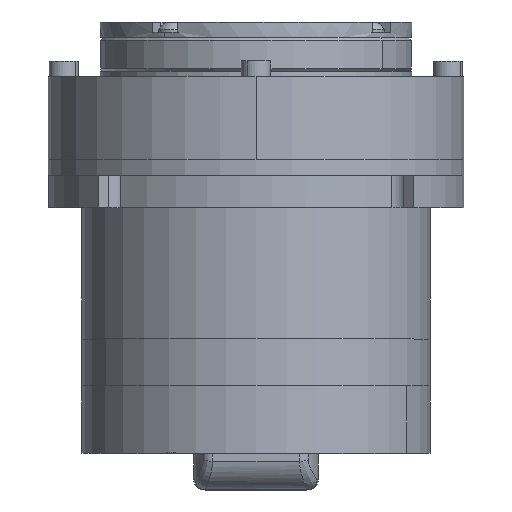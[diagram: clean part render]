
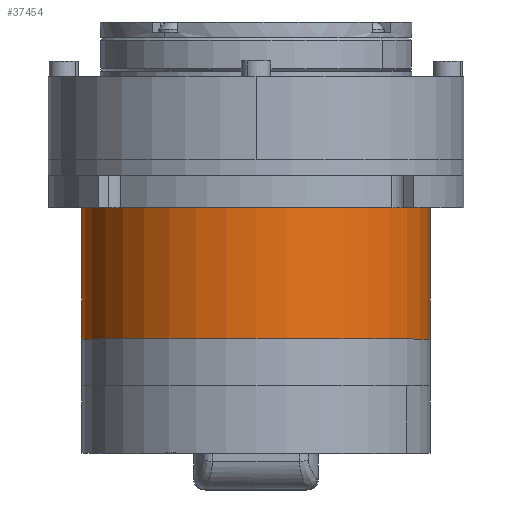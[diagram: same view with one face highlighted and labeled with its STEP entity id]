
A CAD part, top view. The second image highlights one B-rep face of the part: STEP entity #37454.
In plain terms, the highlighted cylindrical face has radius 33.5 mm (diameter 67 mm), a partial arc.
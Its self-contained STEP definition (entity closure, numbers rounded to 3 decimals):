
#387 = VECTOR ( 'NONE', #2872, 1000. ) ;
#1642 = EDGE_CURVE ( 'NONE', #17081, #35253, #3542, .T. ) ;
#2872 = DIRECTION ( 'NONE',  ( 0., 1., 0. ) ) ;
#3210 = ORIENTED_EDGE ( 'NONE', *, *, #13346, .T. ) ;
#3542 = LINE ( 'NONE', #17387, #387 ) ;
#4522 = EDGE_CURVE ( 'NONE', #23359, #13095, #26346, .T. ) ;
#6671 = VECTOR ( 'NONE', #43758, 1000. ) ;
#6757 = DIRECTION ( 'NONE',  ( -1., 0., 0. ) ) ;
#9027 = CARTESIAN_POINT ( 'NONE',  ( -33.5, -34.5, 0. ) ) ;
#9621 = CARTESIAN_POINT ( 'NONE',  ( -33.5, -34.5, 0. ) ) ;
#10175 = CARTESIAN_POINT ( 'NONE',  ( 0., -34.5, 0. ) ) ;
#10605 = ORIENTED_EDGE ( 'NONE', *, *, #1642, .T. ) ;
#11978 = AXIS2_PLACEMENT_3D ( 'NONE', #42459, #32295, #42232 ) ;
#12176 = CARTESIAN_POINT ( 'NONE',  ( 33.5, -34.5, 0. ) ) ;
#12931 = DIRECTION ( 'NONE',  ( 1., 0., 0. ) ) ;
#13095 = VERTEX_POINT ( 'NONE', #28715 ) ;
#13346 = EDGE_CURVE ( 'NONE', #35253, #13095, #40123, .T. ) ;
#13378 = CARTESIAN_POINT ( 'NONE',  ( 33.5, -9.2, 0. ) ) ;
#17081 = VERTEX_POINT ( 'NONE', #12176 ) ;
#17387 = CARTESIAN_POINT ( 'NONE',  ( 33.5, -34.5, 0. ) ) ;
#18354 = EDGE_LOOP ( 'NONE', ( #34752, #10605, #3210, #19144 ) ) ;
#19144 = ORIENTED_EDGE ( 'NONE', *, *, #4522, .F. ) ;
#23359 = VERTEX_POINT ( 'NONE', #9027 ) ;
#23690 = AXIS2_PLACEMENT_3D ( 'NONE', #43677, #33956, #12931 ) ;
#24611 = DIRECTION ( 'NONE',  ( 0., 1., 0. ) ) ;
#26346 = LINE ( 'NONE', #9621, #6671 ) ;
#28715 = CARTESIAN_POINT ( 'NONE',  ( -33.5, -9.2, 0. ) ) ;
#29477 = CIRCLE ( 'NONE', #23690, 33.5 ) ;
#32295 = DIRECTION ( 'NONE',  ( 0., -1., 0. ) ) ;
#32510 = EDGE_CURVE ( 'NONE', #17081, #23359, #29477, .T. ) ;
#33852 = AXIS2_PLACEMENT_3D ( 'NONE', #10175, #24611, #6757 ) ;
#33956 = DIRECTION ( 'NONE',  ( 0., -1., 0. ) ) ;
#34752 = ORIENTED_EDGE ( 'NONE', *, *, #32510, .F. ) ;
#35253 = VERTEX_POINT ( 'NONE', #13378 ) ;
#37454 = ADVANCED_FACE ( 'NONE', ( #37533 ), #44535, .T. ) ;
#37533 = FACE_OUTER_BOUND ( 'NONE', #18354, .T. ) ;
#40123 = CIRCLE ( 'NONE', #11978, 33.5 ) ;
#42232 = DIRECTION ( 'NONE',  ( -1., 0., 0. ) ) ;
#42459 = CARTESIAN_POINT ( 'NONE',  ( 0., -9.2, 0. ) ) ;
#43677 = CARTESIAN_POINT ( 'NONE',  ( 0., -34.5, 0. ) ) ;
#43758 = DIRECTION ( 'NONE',  ( 0., 1., 0. ) ) ;
#44535 = CYLINDRICAL_SURFACE ( 'NONE', #33852, 33.5 ) ;
